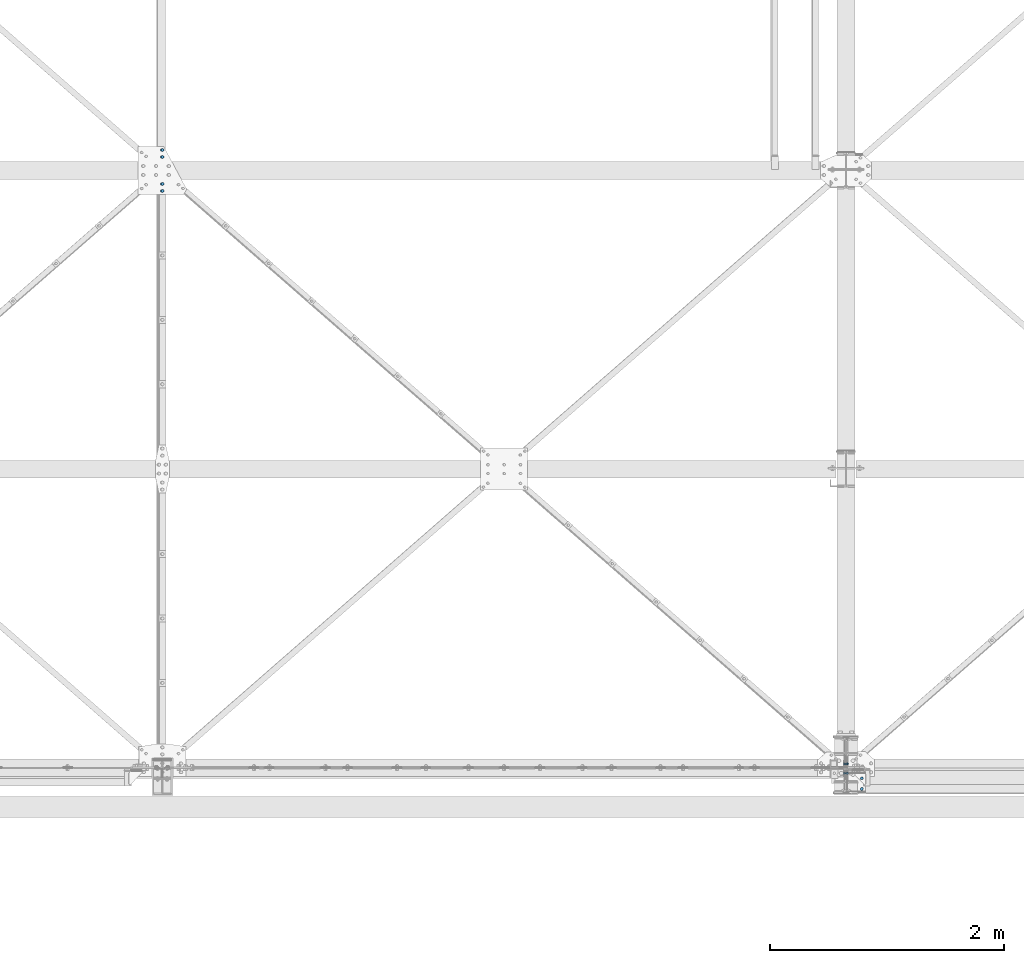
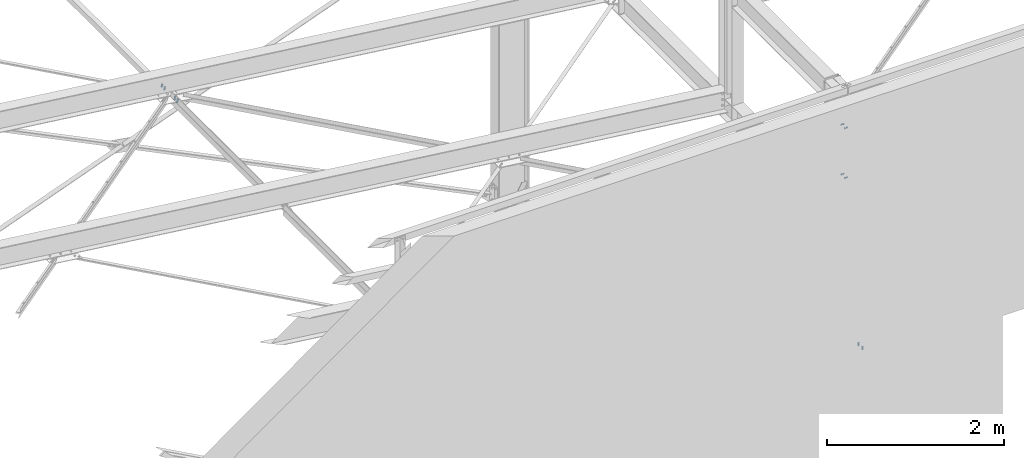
# One storey, part 123 of 3134: 5 mechanical fasteners, 4 elements without a shape of their own.
"""IFC2X3 building model written with IfcOpenShell, lengths in millimetres."""

import ifcopenshell
import ifcopenshell.guid

model = None  # the IFC model being written
_history = None  # IfcOwnerHistory: only IFC2X3 demands one
_inside = {}  # id of a spatial element -> (the spatial element, [elements in it])
_under = {}  # id of a project, library or spatial element -> (it, [spatial elements below it])
_declared = {}  # id of a project -> (the project, [libraries it declares])
_typed = {}  # id of a type object -> (the type object, [elements of that type])
_made_of = {}  # id of a material, layer set ... -> (it, [elements and type objects made of it])


def new_model(schema):
    """Start an empty IFC model of exactly this schema.

    Asked for "IFC4X3", IfcOpenShell would pick the latest addendum, in which some entities
    have other attributes; the version numbers below select the first issue.
    IFC2X3 requires an IfcOwnerHistory on every rooted entity: one is made here for all.
    """
    global model, _history
    if schema == "IFC4X3":
        model = ifcopenshell.file(schema_version=(4, 3, 0, 0))
    else:
        model = ifcopenshell.file(schema=schema)
    _inside.clear()
    _under.clear()
    _declared.clear()
    _typed.clear()
    _made_of.clear()
    _history = None
    if model.schema == "IFC2X3":
        org = make("IfcOrganization", Name="unknown")
        user = make(
            "IfcPersonAndOrganization",
            ThePerson=make("IfcPerson", FamilyName="unknown"),
            TheOrganization=org,
        )
        app = make(
            "IfcApplication",
            ApplicationDeveloper=org,
            Version="unknown",
            ApplicationFullName="unknown",
            ApplicationIdentifier="unknown",
        )
        _history = make(
            "IfcOwnerHistory",
            OwningUser=user,
            OwningApplication=app,
            ChangeAction="ADDED",
            CreationDate=0,
        )
    return model


def make(cls, **values):
    """One entity of the class cls with the attributes given. An attribute that is None is left unset."""
    return model.create_entity(
        cls, **{name: value for name, value in values.items() if value is not None}
    )


def rooted(cls, **values):
    """An entity with a GlobalId (a new one), such as an element, a storey or a relation."""
    return make(cls, GlobalId=ifcopenshell.guid.new(), OwnerHistory=_history, **values)


def si_unit(unit_type, name, prefix=None):
    """IfcSIUnit, for example si_unit("LENGTHUNIT", "METRE", prefix="MILLI")."""
    return make("IfcSIUnit", UnitType=unit_type, Prefix=prefix, Name=name)


def assignment(units):
    """IfcUnitAssignment: the units of a project."""
    return None if units is None else make("IfcUnitAssignment", Units=units)


def point(xyz):
    """IfcCartesianPoint."""
    return None if xyz is None else make("IfcCartesianPoint", Coordinates=xyz)


def direction(xyz):
    """IfcDirection."""
    return None if xyz is None else make("IfcDirection", DirectionRatios=xyz)


def frame(location, z_axis=None, x_axis=None):
    """IfcAxis2Placement3D, a coordinate frame: its origin and axes. An axis left out is left unset."""
    return make(
        "IfcAxis2Placement3D",
        Location=point(location),
        Axis=direction(z_axis),
        RefDirection=direction(x_axis),
    )


def origin_with_axes():
    """The frame at (0, 0, 0) with the z axis (0, 0, 1) and the x axis (1, 0, 0) written out."""
    return frame((0.0, 0.0, 0.0), z_axis=(0.0, 0.0, 1.0), x_axis=(1.0, 0.0, 0.0))


def place(relative_to, where):
    """IfcLocalPlacement: puts the frame where relative to a parent placement (None: the world)."""
    return make(
        "IfcLocalPlacement", PlacementRelTo=relative_to, RelativePlacement=where
    )


def context(
    kind, dimensions, precision=None, world=None, true_north=None, identifier=None
):
    """IfcGeometricRepresentationContext, for example the 3D "Model" context."""
    return make(
        "IfcGeometricRepresentationContext",
        ContextIdentifier=identifier,
        ContextType=kind,
        CoordinateSpaceDimension=dimensions,
        Precision=precision,
        WorldCoordinateSystem=world,
        TrueNorth=true_north,
    )


def subcontext(parent, identifier, kind, view, scale=None):
    """IfcGeometricRepresentationSubContext, for example "Body" below "Model"."""
    return make(
        "IfcGeometricRepresentationSubContext",
        ContextIdentifier=identifier,
        ContextType=kind,
        ParentContext=parent,
        TargetScale=scale,
        TargetView=view,
    )


def project(units=None, contexts=None):
    """IfcProject with its units and contexts."""
    return rooted(
        "IfcProject",
        Name="project",
        RepresentationContexts=contexts,
        UnitsInContext=assignment(units),
    )


def spatial(cls, under=None, at=None, **own):
    """A site, building, storey or space (cls), placed at a placement, below another one or the project."""
    s = rooted(cls, ObjectPlacement=at, **own)
    if under is not None:
        _under.setdefault(under.id(), (under, []))[1].append(s)
    return s


def faces_of(points, faces, orient=None, outer=None):
    """IfcFace entities. A face is a list of loops; a loop is a list of indices into points, from 0.

    orient and outer hold one flag for each loop. By default every Orientation is true, the
    first loop of a face is its IfcFaceOuterBound and the others are IfcFaceBound.
    """
    made = []
    for i, loops in enumerate(faces):
        bounds = []
        for j, loop in enumerate(loops):
            is_outer = j == 0 if outer is None else outer[i][j]
            bounds.append(
                make(
                    "IfcFaceOuterBound" if is_outer else "IfcFaceBound",
                    Bound=make("IfcPolyLoop", Polygon=[points[k] for k in loop]),
                    Orientation=True if orient is None else orient[i][j],
                )
            )
        made.append(make("IfcFace", Bounds=bounds))
    return made


def faceted_brep(points, faces, orient=None, outer=None, voids=None):
    """IfcFacetedBrep: a solid bounded by flat faces; with voids (closed shells), ...WithVoids."""
    shared = [point(p) for p in points]
    hull = make("IfcClosedShell", CfsFaces=faces_of(shared, faces, orient, outer))
    if voids is None:
        return make("IfcFacetedBrep", Outer=hull)
    return make(
        "IfcFacetedBrepWithVoids",
        Outer=hull,
        Voids=[
            make(cls, CfsFaces=faces_of(shared, fs, o, b)) for cls, fs, o, b in voids
        ],
    )


def shape(context_of_items, identifier, shape_type, items):
    """IfcShapeRepresentation: the items that make up one representation, for example the "Body"."""
    return make(
        "IfcShapeRepresentation",
        ContextOfItems=context_of_items,
        RepresentationIdentifier=identifier,
        RepresentationType=shape_type,
        Items=items,
    )


def source(mapping_origin, context_of_items, identifier, shape_type, items):
    """IfcRepresentationMap: a shape defined once, which mapped items show again and again."""
    return make(
        "IfcRepresentationMap",
        MappingOrigin=mapping_origin,
        MappedRepresentation=shape(context_of_items, identifier, shape_type, items),
    )


def transform(
    local_origin,
    x_axis=None,
    y_axis=None,
    z_axis=None,
    scale=None,
    scale2=None,
    scale3=None,
    uniform=True,
):
    """IfcCartesianTransformationOperator3D, or its non-uniform kind. x_axis, y_axis, z_axis: its Axis1, 2, 3."""
    if uniform:
        return make(
            "IfcCartesianTransformationOperator3D",
            Axis1=direction(x_axis),
            Axis2=direction(y_axis),
            LocalOrigin=point(local_origin),
            Scale=scale,
            Axis3=direction(z_axis),
        )
    return make(
        "IfcCartesianTransformationOperator3DnonUniform",
        Axis1=direction(x_axis),
        Axis2=direction(y_axis),
        LocalOrigin=point(local_origin),
        Scale=scale,
        Axis3=direction(z_axis),
        Scale2=scale2,
        Scale3=scale3,
    )


def mapped(mapping_source, mapping_target):
    """IfcMappedItem: shows the shape of a source again, moved by a transform."""
    return make(
        "IfcMappedItem", MappingSource=mapping_source, MappingTarget=mapping_target
    )


def material(Name=None, Category=None):
    """IfcMaterial."""
    return make("IfcMaterial", Name=Name, Category=Category)


def made_of(thing, what):
    """Note that an element or type object is made of a material, layer set ...; save() writes the relation."""
    if what is not None:
        _made_of.setdefault(what.id(), (what, []))[1].append(thing)
    return thing


def type_object(cls, material=None, **own):
    """A type object (cls), such as IfcWallType, which elements share."""
    return made_of(rooted(cls, **own), material)


def element(
    cls,
    number,
    at=None,
    inside=None,
    cuts=None,
    type_object=None,
    material=None,
    context=None,
    identifier="Body",
    shape_type=None,
    held_by="IfcProductDefinitionShape",
    body=None,
    shapes=None,
    **own,
):
    """One element of the class cls, such as IfcWall. Its Tag is "e" and its number.

    at: its placement. inside: the storey or other place that contains it. cuts: it is an
    opening in that element (IfcRelVoidsElement). A single representation is given by context,
    identifier, shape_type and body (its items); several are given by shapes. held_by: the class
    of the entity that holds the representations. save() writes the other relations.
    """
    e = rooted(cls, Tag="e%d" % number, ObjectPlacement=at, **own)
    if body is not None:
        shapes = [shape(context, identifier, shape_type, body)]
    if shapes is not None:
        e.Representation = make(held_by, Representations=shapes)
    if inside is not None:
        _inside.setdefault(inside.id(), (inside, []))[1].append(e)
    if cuts is not None:
        rooted(
            "IfcRelVoidsElement", RelatingBuildingElement=cuts, RelatedOpeningElement=e
        )
    if type_object is not None:
        _typed.setdefault(type_object.id(), (type_object, []))[1].append(e)
    return made_of(e, material)


def aggregate(whole, parts):
    """IfcRelAggregates: a whole, such as a stair, and the parts it consists of."""
    return rooted("IfcRelAggregates", RelatingObject=whole, RelatedObjects=parts)


def save(model, path):
    """Write the relations noted so far, then the file.

    IfcRelAggregates (storeys below a building ...), IfcRelContainedInSpatialStructure (elements
    in a storey), IfcRelDefinesByType, IfcRelAssociatesMaterial and IfcRelDeclares: one each for
    every whole, place, type object, material and project.
    """
    for whole, parts in _under.values():
        aggregate(whole, parts)
    for where, things in _inside.values():
        rooted(
            "IfcRelContainedInSpatialStructure",
            RelatedElements=things,
            RelatingStructure=where,
        )
    for kind, things in _typed.values():
        rooted("IfcRelDefinesByType", RelatedObjects=things, RelatingType=kind)
    for what, things in _made_of.values():
        rooted("IfcRelAssociatesMaterial", RelatedObjects=things, RelatingMaterial=what)
    for by, libraries in _declared.values():
        rooted("IfcRelDeclares", RelatingContext=by, RelatedDefinitions=libraries)
    model.write(path)


model = new_model("IFC2X3")

# Units and contexts
model_context = context("Model", 3, precision=1e-05, world=origin_with_axes())
body_context = subcontext(model_context, "Body", "Model", "MODEL_VIEW")
ifc_project = project(units=[si_unit("LENGTHUNIT", "METRE", prefix="MILLI"), si_unit("AREAUNIT", "SQUARE_METRE"), si_unit("VOLUMEUNIT", "CUBIC_METRE"), si_unit("MASSUNIT", "GRAM", prefix="KILO"), si_unit("TIMEUNIT", "SECOND"), si_unit("PLANEANGLEUNIT", "RADIAN"), si_unit("SOLIDANGLEUNIT", "STERADIAN"), si_unit("THERMODYNAMICTEMPERATUREUNIT", "DEGREE_CELSIUS"), si_unit("LUMINOUSINTENSITYUNIT", "LUMEN")], contexts=[model_context])

# Site, building, storey
site_placement = place(None, origin_with_axes())
site = spatial("IfcSite", under=ifc_project, at=site_placement, CompositionType="ELEMENT")
building_placement = place(site_placement, origin_with_axes())
building = spatial("IfcBuilding", under=site, at=building_placement, Name="Undefined", CompositionType="ELEMENT")
storey_placement = place(building_placement, origin_with_axes())
storey = spatial("IfcBuildingStorey", under=building, at=storey_placement, Name="Undefined", CompositionType="ELEMENT", Elevation=0.0)

# Assembly, mechanical fastener
assembly_1_placement = place(storey_placement, origin_with_axes())
assembly_1 = element("IfcElementAssembly", 1, at=assembly_1_placement, inside=storey, AssemblyPlace="NOTDEFINED", PredefinedType="RIGID_FRAME")
ifc_material = material(Name="8.8")
mechanical_fastener_type = type_object("IfcMechanicalFastenerType", Name="Bolt assembly")
shared_shape_1 = source(origin_with_axes(), body_context, "Body", "Brep", [
    faceted_brep([(13.856406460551, -16.9990000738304, 0.0), (6.92820323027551, -16.9990000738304, 12.0), (-6.92820323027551, -16.9990000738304, 12.0), (-13.856406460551, -16.9990000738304, 1.69692038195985e-15), (-6.92820323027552, -16.9990000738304, -12.0), (6.9282032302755, -16.9990000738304, -12.0), (6.9282032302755, -6.99900007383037, -12.0), (-6.92820323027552, -6.99900007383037, -12.0), (-13.856406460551, -6.99900007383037, 1.69692038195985e-15), (-6.92820323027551, -6.99900007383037, 12.0), (6.92820323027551, -6.99900007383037, 12.0), (13.856406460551, -6.99900007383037, 0.0), (8.0, -6.99900007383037, 0.0), (6.92820323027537, -6.99900007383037, 4.00000000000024), (3.99999999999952, -6.99900007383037, 6.92820323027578), (-8.29068785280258e-13, -6.99900007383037, 8.0), (-4.00000000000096, -6.99900007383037, 6.92820323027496), (-6.9282032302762, -6.99900007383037, 3.99999999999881), (-8.0, -6.99900007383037, -1.65813757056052e-12), (-6.92820323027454, -6.99900007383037, -4.00000000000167), (-3.99999999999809, -6.99900007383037, -6.92820323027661), (2.47832457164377e-12, -6.99900007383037, -8.0), (4.00000000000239, -6.99900007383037, -6.92820323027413), (6.92820323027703, -6.99900007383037, -3.99999999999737), (6.92820323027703, 33.0009999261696, -3.99999999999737), (4.00000000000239, 33.0009999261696, -6.92820323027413), (2.47832457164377e-12, 33.0009999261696, -8.0), (-3.99999999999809, 33.0009999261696, -6.92820323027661), (-6.92820323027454, 33.0009999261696, -4.00000000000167), (-8.0, 33.0009999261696, -1.65813757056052e-12), (-6.9282032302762, 33.0009999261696, 3.99999999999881), (-4.00000000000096, 33.0009999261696, 6.92820323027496), (-8.29068785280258e-13, 33.0009999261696, 8.0), (3.99999999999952, 33.0009999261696, 6.92820323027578), (6.92820323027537, 33.0009999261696, 4.00000000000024), (8.0, 33.0009999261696, 0.0), (13.856406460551, 14.9990000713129, 0.0), (6.92820323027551, 14.9990000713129, 12.0), (-6.92820323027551, 14.9990000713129, 12.0), (-13.856406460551, 14.9990000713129, 1.69692038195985e-15), (-6.92820323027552, 14.9990000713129, -12.0), (6.9282032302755, 14.9990000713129, -12.0), (6.9282032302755, 27.9990000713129, -12.0), (-6.92820323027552, 27.9990000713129, -12.0), (-13.856406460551, 27.9990000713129, 1.69692038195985e-15), (-6.92820323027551, 27.9990000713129, 12.0), (6.92820323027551, 27.9990000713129, 12.0), (13.856406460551, 27.9990000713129, 0.0)], [[[0, 1, 2, 3, 4, 5]], [[6, 7, 8, 9, 10, 11]], [[0, 11, 10, 1]], [[1, 10, 9, 2]], [[2, 9, 8, 3]], [[3, 8, 7, 4]], [[4, 7, 6, 5]], [[5, 6, 11, 0]], [[12, 13, 14, 15, 16, 17, 18, 19, 20, 21, 22, 23]], [[24, 25, 26, 27, 28, 29, 30, 31, 32, 33, 34, 35]], [[12, 35, 34, 13]], [[13, 34, 33, 14]], [[14, 33, 32, 15]], [[15, 32, 31, 16]], [[16, 31, 30, 17]], [[17, 30, 29, 18]], [[18, 29, 28, 19]], [[19, 28, 27, 20]], [[20, 27, 26, 21]], [[21, 26, 25, 22]], [[22, 25, 24, 23]], [[23, 24, 35, 12]], [[36, 37, 38, 39, 40, 41]], [[42, 43, 44, 45, 46, 47]], [[36, 47, 46, 37]], [[37, 46, 45, 38]], [[38, 45, 44, 39]], [[39, 44, 43, 40]], [[40, 43, 42, 41]], [[41, 42, 47, 36]]]),
    faceted_brep([(9.0, -3.46568413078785e-07, 0.0), (7.79422863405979, -3.46568413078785e-07, 4.50000000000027), (4.49999999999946, -3.46568413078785e-07, 7.79422863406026), (-9.3270238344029e-13, -3.46568413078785e-07, 9.0), (-4.50000000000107, -3.46568413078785e-07, 7.79422863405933), (-7.79422863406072, -3.46568413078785e-07, 4.49999999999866), (-9.0, -3.46568413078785e-07, -1.86540476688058e-12), (-7.79422863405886, -3.46568413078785e-07, -4.50000000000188), (-4.49999999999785, -3.46568413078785e-07, -7.79422863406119), (2.78811514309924e-12, -3.46568413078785e-07, -9.0), (4.50000000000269, -3.46568413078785e-07, -7.7942286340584), (7.79422863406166, -3.46568413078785e-07, -4.49999999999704), (7.79422863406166, 8.00000000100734, -4.49999999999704), (4.50000000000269, 8.00000000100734, -7.7942286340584), (2.78811514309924e-12, 8.00000000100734, -9.0), (-4.49999999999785, 8.00000000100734, -7.79422863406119), (-7.79422863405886, 8.00000000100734, -4.50000000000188), (-9.0, 8.00000000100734, -1.86540476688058e-12), (-7.79422863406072, 8.00000000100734, 4.49999999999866), (-4.50000000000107, 8.00000000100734, 7.79422863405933), (-9.3270238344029e-13, 8.00000000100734, 9.0), (4.49999999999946, 8.00000000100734, 7.79422863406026), (7.79422863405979, 8.00000000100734, 4.50000000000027), (9.0, 8.00000000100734, 0.0), (9.0, -6.89900007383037, 0.0), (7.79422863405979, -6.89900007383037, 4.50000000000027), (4.49999999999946, -6.89900007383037, 7.79422863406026), (-9.3270238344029e-13, -6.89900007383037, 9.0), (-4.50000000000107, -6.89900007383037, 7.79422863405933), (-7.79422863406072, -6.89900007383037, 4.49999999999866), (-9.0, -6.89900007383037, -1.86540476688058e-12), (-7.79422863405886, -6.89900007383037, -4.50000000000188), (-4.49999999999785, -6.89900007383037, -7.79422863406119), (2.78811514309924e-12, -6.89900007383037, -9.0), (4.50000000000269, -6.89900007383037, -7.7942286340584), (7.79422863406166, -6.89900007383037, -4.49999999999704), (7.79422863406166, 0.100999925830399, -4.49999999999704), (4.50000000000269, 0.100999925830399, -7.7942286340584), (2.78811514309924e-12, 0.100999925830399, -9.0), (-4.49999999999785, 0.100999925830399, -7.79422863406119), (-7.79422863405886, 0.100999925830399, -4.50000000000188), (-9.0, 0.100999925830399, -1.86540476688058e-12), (-7.79422863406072, 0.100999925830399, 4.49999999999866), (-4.50000000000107, 0.100999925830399, 7.79422863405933), (-9.3270238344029e-13, 0.100999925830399, 9.0), (4.49999999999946, 0.100999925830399, 7.79422863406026), (7.79422863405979, 0.100999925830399, 4.50000000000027), (9.0, 0.100999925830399, 0.0), (9.0, 7.89900007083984, 0.0), (7.79422863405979, 7.89900007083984, 4.50000000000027), (4.49999999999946, 7.89900007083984, 7.79422863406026), (-9.3270238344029e-13, 7.89900007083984, 9.0), (-4.50000000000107, 7.89900007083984, 7.79422863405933), (-7.79422863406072, 7.89900007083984, 4.49999999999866), (-9.0, 7.89900007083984, -1.86540476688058e-12), (-7.79422863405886, 7.89900007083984, -4.50000000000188), (-4.49999999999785, 7.89900007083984, -7.79422863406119), (2.78811514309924e-12, 7.89900007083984, -9.0), (4.50000000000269, 7.89900007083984, -7.7942286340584), (7.79422863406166, 7.89900007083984, -4.49999999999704), (7.79422863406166, 14.9990000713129, -4.49999999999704), (4.50000000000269, 14.9990000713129, -7.7942286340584), (2.78811514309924e-12, 14.9990000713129, -9.0), (-4.49999999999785, 14.9990000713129, -7.79422863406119), (-7.79422863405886, 14.9990000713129, -4.50000000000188), (-9.0, 14.9990000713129, -1.86540476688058e-12), (-7.79422863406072, 14.9990000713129, 4.49999999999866), (-4.50000000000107, 14.9990000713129, 7.79422863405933), (-9.3270238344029e-13, 14.9990000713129, 9.0), (4.49999999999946, 14.9990000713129, 7.79422863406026), (7.79422863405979, 14.9990000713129, 4.50000000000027), (9.0, 14.9990000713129, 0.0)], [[[0, 1, 2, 3, 4, 5, 6, 7, 8, 9, 10, 11]], [[12, 13, 14, 15, 16, 17, 18, 19, 20, 21, 22, 23]], [[0, 23, 22, 1]], [[1, 22, 21, 2]], [[2, 21, 20, 3]], [[3, 20, 19, 4]], [[4, 19, 18, 5]], [[5, 18, 17, 6]], [[6, 17, 16, 7]], [[7, 16, 15, 8]], [[8, 15, 14, 9]], [[9, 14, 13, 10]], [[10, 13, 12, 11]], [[11, 12, 23, 0]], [[24, 25, 26, 27, 28, 29, 30, 31, 32, 33, 34, 35]], [[36, 37, 38, 39, 40, 41, 42, 43, 44, 45, 46, 47]], [[24, 47, 46, 25]], [[25, 46, 45, 26]], [[26, 45, 44, 27]], [[27, 44, 43, 28]], [[28, 43, 42, 29]], [[29, 42, 41, 30]], [[30, 41, 40, 31]], [[31, 40, 39, 32]], [[32, 39, 38, 33]], [[33, 38, 37, 34]], [[34, 37, 36, 35]], [[35, 36, 47, 24]], [[48, 49, 50, 51, 52, 53, 54, 55, 56, 57, 58, 59]], [[60, 61, 62, 63, 64, 65, 66, 67, 68, 69, 70, 71]], [[48, 71, 70, 49]], [[49, 70, 69, 50]], [[50, 69, 68, 51]], [[51, 68, 67, 52]], [[52, 67, 66, 53]], [[53, 66, 65, 54]], [[54, 65, 64, 55]], [[55, 64, 63, 56]], [[56, 63, 62, 57]], [[57, 62, 61, 58]], [[58, 61, 60, 59]], [[59, 60, 71, 48]]]),
])
mechanical_fastener_1_placement = place(assembly_1_placement, frame((50037.9849612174, 4925.0, 4806.73358921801), z_axis=(-0.992623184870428, 0.0, 0.121240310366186), x_axis=(0.0, 1.0, 0.0)))
mechanical_fastener_1 = element("IfcMechanicalFastener", 2, at=mechanical_fastener_1_placement, type_object=mechanical_fastener_type, material=ifc_material, Name="Bolt assembly", NominalDiameter=16.0, NominalLength=40.0, context=body_context, shape_type="MappedRepresentation", body=[
    mapped(shared_shape_1, transform((0.0, 0.0, 0.0))),
    mapped(shared_shape_1, transform((59.9999999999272, 0.0, 5.40239852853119e-10))),
])
aggregate(assembly_1, [mechanical_fastener_1])

assembly_2_placement = place(storey_placement, origin_with_axes())
assembly_2 = element("IfcElementAssembly", 3, at=assembly_2_placement, inside=storey, Name="PL8", AssemblyPlace="NOTDEFINED", PredefinedType="RIGID_FRAME")
shared_shape_2 = source(origin_with_axes(), body_context, "Body", "Brep", [
    faceted_brep([(13.856406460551, -10.0, 0.0), (6.92820323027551, -10.0, 12.0), (-6.92820323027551, -10.0, 12.0), (-13.856406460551, -10.0, 1.69692038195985e-15), (-6.92820323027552, -10.0, -12.0), (6.9282032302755, -10.0, -12.0), (6.9282032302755, 0.0, -12.0), (-6.92820323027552, 0.0, -12.0), (-13.856406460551, 0.0, 1.69692038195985e-15), (-6.92820323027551, 0.0, 12.0), (6.92820323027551, 0.0, 12.0), (13.856406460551, 0.0, 0.0), (8.0, 0.0, 0.0), (6.92820323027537, 0.0, 4.00000000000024), (3.99999999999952, 0.0, 6.92820323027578), (-8.29068785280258e-13, 0.0, 8.0), (-4.00000000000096, 0.0, 6.92820323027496), (-6.9282032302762, 0.0, 3.99999999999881), (-8.0, 0.0, -1.65813757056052e-12), (-6.92820323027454, 0.0, -4.00000000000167), (-3.99999999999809, 0.0, -6.92820323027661), (2.47832457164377e-12, 0.0, -8.0), (4.00000000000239, 0.0, -6.92820323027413), (6.92820323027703, 0.0, -3.99999999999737), (6.92820323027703, 35.0000000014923, -3.99999999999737), (4.00000000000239, 35.0000000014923, -6.92820323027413), (2.47832457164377e-12, 35.0000000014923, -8.0), (-3.99999999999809, 35.0000000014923, -6.92820323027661), (-6.92820323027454, 35.0000000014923, -4.00000000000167), (-8.0, 35.0000000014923, -1.65813757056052e-12), (-6.9282032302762, 35.0000000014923, 3.99999999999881), (-4.00000000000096, 35.0000000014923, 6.92820323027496), (-8.29068785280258e-13, 35.0000000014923, 8.0), (3.99999999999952, 35.0000000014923, 6.92820323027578), (6.92820323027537, 35.0000000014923, 4.00000000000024), (8.0, 35.0000000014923, 0.0), (13.856406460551, 14.9999995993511, 0.0), (6.92820323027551, 14.9999995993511, 12.0), (-6.92820323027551, 14.9999995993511, 12.0), (-13.856406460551, 14.9999995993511, 1.69692038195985e-15), (-6.92820323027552, 14.9999995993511, -12.0), (6.9282032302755, 14.9999995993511, -12.0), (6.9282032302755, 27.9999995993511, -12.0), (-6.92820323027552, 27.9999995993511, -12.0), (-13.856406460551, 27.9999995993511, 1.69692038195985e-15), (-6.92820323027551, 27.9999995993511, 12.0), (6.92820323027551, 27.9999995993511, 12.0), (13.856406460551, 27.9999995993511, 0.0)], [[[0, 1, 2, 3, 4, 5]], [[6, 7, 8, 9, 10, 11]], [[0, 11, 10, 1]], [[1, 10, 9, 2]], [[2, 9, 8, 3]], [[3, 8, 7, 4]], [[4, 7, 6, 5]], [[5, 6, 11, 0]], [[12, 13, 14, 15, 16, 17, 18, 19, 20, 21, 22, 23]], [[24, 25, 26, 27, 28, 29, 30, 31, 32, 33, 34, 35]], [[12, 35, 34, 13]], [[13, 34, 33, 14]], [[14, 33, 32, 15]], [[15, 32, 31, 16]], [[16, 31, 30, 17]], [[17, 30, 29, 18]], [[18, 29, 28, 19]], [[19, 28, 27, 20]], [[20, 27, 26, 21]], [[21, 26, 25, 22]], [[22, 25, 24, 23]], [[23, 24, 35, 12]], [[36, 37, 38, 39, 40, 41]], [[42, 43, 44, 45, 46, 47]], [[36, 47, 46, 37]], [[37, 46, 45, 38]], [[38, 45, 44, 39]], [[39, 44, 43, 40]], [[40, 43, 42, 41]], [[41, 42, 47, 36]]]),
    faceted_brep([(9.0, 7.9, 0.0), (7.79422863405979, 7.9, 4.50000000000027), (4.49999999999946, 7.9, 7.79422863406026), (-9.3270238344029e-13, 7.9, 9.0), (-4.50000000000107, 7.9, 7.79422863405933), (-7.79422863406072, 7.9, 4.49999999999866), (-9.0, 7.9, -1.86540476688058e-12), (-7.79422863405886, 7.9, -4.50000000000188), (-4.49999999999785, 7.9, -7.79422863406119), (2.78811514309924e-12, 7.9, -9.0), (4.50000000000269, 7.9, -7.7942286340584), (7.79422863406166, 7.9, -4.49999999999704), (7.79422863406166, 14.9999995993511, -4.49999999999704), (4.50000000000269, 14.9999995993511, -7.7942286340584), (2.78811514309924e-12, 14.9999995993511, -9.0), (-4.49999999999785, 14.9999995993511, -7.79422863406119), (-7.79422863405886, 14.9999995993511, -4.50000000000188), (-9.0, 14.9999995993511, -1.86540476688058e-12), (-7.79422863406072, 14.9999995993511, 4.49999999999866), (-4.50000000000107, 14.9999995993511, 7.79422863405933), (-9.3270238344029e-13, 14.9999995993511, 9.0), (4.49999999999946, 14.9999995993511, 7.79422863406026), (7.79422863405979, 14.9999995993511, 4.50000000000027), (9.0, 14.9999995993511, 0.0), (9.0, 0.100000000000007, 0.0), (7.79422863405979, 0.100000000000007, 4.50000000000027), (4.49999999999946, 0.100000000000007, 7.79422863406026), (-9.3270238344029e-13, 0.100000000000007, 9.0), (-4.50000000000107, 0.100000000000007, 7.79422863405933), (-7.79422863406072, 0.100000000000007, 4.49999999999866), (-9.0, 0.100000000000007, -1.86540476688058e-12), (-7.79422863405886, 0.100000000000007, -4.50000000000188), (-4.49999999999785, 0.100000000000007, -7.79422863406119), (2.78811514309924e-12, 0.100000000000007, -9.0), (4.50000000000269, 0.100000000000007, -7.7942286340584), (7.79422863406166, 0.100000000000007, -4.49999999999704), (7.79422863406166, 8.1, -4.49999999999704), (4.50000000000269, 8.1, -7.7942286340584), (2.78811514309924e-12, 8.1, -9.0), (-4.49999999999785, 8.1, -7.79422863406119), (-7.79422863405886, 8.1, -4.50000000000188), (-9.0, 8.1, -1.86540476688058e-12), (-7.79422863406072, 8.1, 4.49999999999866), (-4.50000000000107, 8.1, 7.79422863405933), (-9.3270238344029e-13, 8.1, 9.0), (4.49999999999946, 8.1, 7.79422863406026), (7.79422863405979, 8.1, 4.50000000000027), (9.0, 8.1, 0.0)], [[[0, 1, 2, 3, 4, 5, 6, 7, 8, 9, 10, 11]], [[12, 13, 14, 15, 16, 17, 18, 19, 20, 21, 22, 23]], [[0, 23, 22, 1]], [[1, 22, 21, 2]], [[2, 21, 20, 3]], [[3, 20, 19, 4]], [[4, 19, 18, 5]], [[5, 18, 17, 6]], [[6, 17, 16, 7]], [[7, 16, 15, 8]], [[8, 15, 14, 9]], [[9, 14, 13, 10]], [[10, 13, 12, 11]], [[11, 12, 23, 0]], [[24, 25, 26, 27, 28, 29, 30, 31, 32, 33, 34, 35]], [[36, 37, 38, 39, 40, 41, 42, 43, 44, 45, 46, 47]], [[24, 47, 46, 25]], [[25, 46, 45, 26]], [[26, 45, 44, 27]], [[27, 44, 43, 28]], [[28, 43, 42, 29]], [[29, 42, 41, 30]], [[30, 41, 40, 31]], [[31, 40, 39, 32]], [[32, 39, 38, 33]], [[33, 38, 37, 34]], [[34, 37, 36, 35]], [[35, 36, 47, 24]]]),
])
mechanical_fastener_2_placement = place(assembly_2_placement, frame((50037.9849612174, 5274.99999999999, 4806.733589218), z_axis=(0.992623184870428, 0.0, -0.121240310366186), x_axis=(0.0, -1.0, 0.0)))
mechanical_fastener_2 = element("IfcMechanicalFastener", 4, at=mechanical_fastener_2_placement, type_object=mechanical_fastener_type, material=ifc_material, Name="Bolt assembly", NominalDiameter=16.0, NominalLength=35.0, context=body_context, shape_type="MappedRepresentation", body=[
    mapped(shared_shape_2, transform((0.0, 0.0, 0.0))),
    mapped(shared_shape_2, transform((59.9999999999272, 0.0, 5.40239852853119e-10))),
])
aggregate(assembly_2, [mechanical_fastener_2])

assembly_3_placement = place(storey_placement, origin_with_axes())
assembly_3 = element("IfcElementAssembly", 5, at=assembly_3_placement, inside=storey, Name="UPN180", AssemblyPlace="NOTDEFINED", PredefinedType="RIGID_FRAME")
shared_shape_3 = source(origin_with_axes(), body_context, "Body", "Brep", [
    faceted_brep([(13.856406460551, -18.0, 0.0), (6.92820323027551, -18.0, 12.0), (-6.92820323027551, -18.0, 12.0), (-13.856406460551, -18.0, 1.69692038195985e-15), (-6.92820323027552, -18.0, -12.0), (6.9282032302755, -18.0, -12.0), (6.9282032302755, -7.99999766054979, -12.0), (-6.92820323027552, -7.99999766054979, -12.0), (-13.856406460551, -7.99999766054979, 1.69692038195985e-15), (-6.92820323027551, -7.99999766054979, 12.0), (6.92820323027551, -7.99999766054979, 12.0), (13.856406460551, -7.99999766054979, 0.0), (8.0, -8.0, 0.0), (6.92820323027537, -8.0, 4.00000000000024), (3.99999999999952, -8.0, 6.92820323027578), (-8.29068785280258e-13, -8.0, 8.0), (-4.00000000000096, -8.0, 6.92820323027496), (-6.9282032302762, -8.0, 3.99999999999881), (-8.0, -8.0, -1.65813757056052e-12), (-6.92820323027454, -8.0, -4.00000000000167), (-3.99999999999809, -8.0, -6.92820323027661), (2.47832457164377e-12, -8.0, -8.0), (4.00000000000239, -8.0, -6.92820323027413), (6.92820323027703, -8.0, -3.99999999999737), (6.92820323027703, 27.0, -3.99999999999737), (4.00000000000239, 27.0, -6.92820323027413), (2.47832457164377e-12, 27.0, -8.0), (-3.99999999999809, 27.0, -6.92820323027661), (-6.92820323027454, 27.0, -4.00000000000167), (-8.0, 27.0, -1.65813757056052e-12), (-6.9282032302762, 27.0, 3.99999999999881), (-4.00000000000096, 27.0, 6.92820323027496), (-8.29068785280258e-13, 27.0, 8.0), (3.99999999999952, 27.0, 6.92820323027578), (6.92820323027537, 27.0, 4.00000000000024), (8.0, 27.0, 0.0), (13.856406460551, 5.99999999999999, 0.0), (6.92820323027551, 5.99999999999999, 12.0), (-6.92820323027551, 5.99999999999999, 12.0), (-13.856406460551, 5.99999999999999, 1.69692038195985e-15), (-6.92820323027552, 5.99999999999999, -12.0), (6.9282032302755, 5.99999999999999, -12.0), (6.9282032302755, 19.0, -12.0), (-6.92820323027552, 19.0, -12.0), (-13.856406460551, 19.0, 1.69692038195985e-15), (-6.92820323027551, 19.0, 12.0), (6.92820323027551, 19.0, 12.0), (13.856406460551, 19.0, 0.0)], [[[0, 1, 2, 3, 4, 5]], [[6, 7, 8, 9, 10, 11]], [[0, 11, 10, 1]], [[1, 10, 9, 2]], [[2, 9, 8, 3]], [[3, 8, 7, 4]], [[4, 7, 6, 5]], [[5, 6, 11, 0]], [[12, 13, 14, 15, 16, 17, 18, 19, 20, 21, 22, 23]], [[24, 25, 26, 27, 28, 29, 30, 31, 32, 33, 34, 35]], [[12, 35, 34, 13]], [[13, 34, 33, 14]], [[14, 33, 32, 15]], [[15, 32, 31, 16]], [[16, 31, 30, 17]], [[17, 30, 29, 18]], [[18, 29, 28, 19]], [[19, 28, 27, 20]], [[20, 27, 26, 21]], [[21, 26, 25, 22]], [[22, 25, 24, 23]], [[23, 24, 35, 12]], [[36, 37, 38, 39, 40, 41]], [[42, 43, 44, 45, 46, 47]], [[36, 47, 46, 37]], [[37, 46, 45, 38]], [[38, 45, 44, 39]], [[39, 44, 43, 40]], [[40, 43, 42, 41]], [[41, 42, 47, 36]]]),
    faceted_brep([(9.0, -0.1, 0.0), (7.79422863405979, -0.1, 4.50000000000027), (4.49999999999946, -0.1, 7.79422863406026), (-9.3270238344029e-13, -0.1, 9.0), (-4.50000000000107, -0.1, 7.79422863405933), (-7.79422863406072, -0.1, 4.49999999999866), (-9.0, -0.1, -1.86540476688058e-12), (-7.79422863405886, -0.1, -4.50000000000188), (-4.49999999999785, -0.1, -7.79422863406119), (2.78811514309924e-12, -0.1, -9.0), (4.50000000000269, -0.1, -7.7942286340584), (7.79422863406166, -0.1, -4.49999999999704), (7.79422863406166, 5.99999999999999, -4.49999999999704), (4.50000000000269, 5.99999999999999, -7.7942286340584), (2.78811514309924e-12, 5.99999999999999, -9.0), (-4.49999999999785, 5.99999999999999, -7.79422863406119), (-7.79422863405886, 5.99999999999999, -4.50000000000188), (-9.0, 5.99999999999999, -1.86540476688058e-12), (-7.79422863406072, 5.99999999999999, 4.49999999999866), (-4.50000000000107, 5.99999999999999, 7.79422863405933), (-9.3270238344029e-13, 5.99999999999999, 9.0), (4.49999999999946, 5.99999999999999, 7.79422863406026), (7.79422863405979, 5.99999999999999, 4.50000000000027), (9.0, 5.99999999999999, 0.0), (9.0, -7.9, 0.0), (7.79422863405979, -7.9, 4.50000000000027), (4.49999999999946, -7.9, 7.79422863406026), (-9.3270238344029e-13, -7.9, 9.0), (-4.50000000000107, -7.9, 7.79422863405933), (-7.79422863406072, -7.9, 4.49999999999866), (-9.0, -7.9, -1.86540476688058e-12), (-7.79422863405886, -7.9, -4.50000000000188), (-4.49999999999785, -7.9, -7.79422863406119), (2.78811514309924e-12, -7.9, -9.0), (4.50000000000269, -7.9, -7.7942286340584), (7.79422863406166, -7.9, -4.49999999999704), (7.79422863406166, 0.100000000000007, -4.49999999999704), (4.50000000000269, 0.100000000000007, -7.7942286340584), (2.78811514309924e-12, 0.100000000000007, -9.0), (-4.49999999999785, 0.100000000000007, -7.79422863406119), (-7.79422863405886, 0.100000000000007, -4.50000000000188), (-9.0, 0.100000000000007, -1.86540476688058e-12), (-7.79422863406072, 0.100000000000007, 4.49999999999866), (-4.50000000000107, 0.100000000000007, 7.79422863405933), (-9.3270238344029e-13, 0.100000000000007, 9.0), (4.49999999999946, 0.100000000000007, 7.79422863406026), (7.79422863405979, 0.100000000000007, 4.50000000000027), (9.0, 0.100000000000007, 0.0)], [[[0, 1, 2, 3, 4, 5, 6, 7, 8, 9, 10, 11]], [[12, 13, 14, 15, 16, 17, 18, 19, 20, 21, 22, 23]], [[0, 23, 22, 1]], [[1, 22, 21, 2]], [[2, 21, 20, 3]], [[3, 20, 19, 4]], [[4, 19, 18, 5]], [[5, 18, 17, 6]], [[6, 17, 16, 7]], [[7, 16, 15, 8]], [[8, 15, 14, 9]], [[9, 14, 13, 10]], [[10, 13, 12, 11]], [[11, 12, 23, 0]], [[24, 25, 26, 27, 28, 29, 30, 31, 32, 33, 34, 35]], [[36, 37, 38, 39, 40, 41, 42, 43, 44, 45, 46, 47]], [[24, 47, 46, 25]], [[25, 46, 45, 26]], [[26, 45, 44, 27]], [[27, 44, 43, 28]], [[28, 43, 42, 29]], [[29, 42, 41, 30]], [[30, 41, 40, 31]], [[31, 40, 39, 32]], [[32, 39, 38, 33]], [[33, 38, 37, 34]], [[34, 37, 36, 35]], [[35, 36, 47, 24]]]),
])
mechanical_fastener_3_placement = place(assembly_3_placement, frame((56010.0999999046, -135.0, 2400.0), z_axis=(0.0, 1.0, 0.0), x_axis=(1.0, 0.0, 0.0)))
mechanical_fastener_3 = element("IfcMechanicalFastener", 6, at=mechanical_fastener_3_placement, type_object=mechanical_fastener_type, material=ifc_material, Name="Bolt assembly", NominalDiameter=16.0, NominalLength=35.0, context=body_context, shape_type="MappedRepresentation", body=[
    mapped(shared_shape_3, transform((0.0, 0.0, -45.0))),
    mapped(shared_shape_3, transform((0.0, 0.0, 45.0))),
])
aggregate(assembly_3, [mechanical_fastener_3])

# Assembly, mechanical fasteners
assembly_4_placement = place(storey_placement, origin_with_axes())
assembly_4 = element("IfcElementAssembly", 7, at=assembly_4_placement, inside=storey, AssemblyPlace="NOTDEFINED", PredefinedType="RIGID_FRAME")
shared_shape_4 = source(origin_with_axes(), body_context, "Body", "Brep", [
    faceted_brep([(10.9696551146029, -16.0, 0.0), (5.48482755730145, -16.0, 9.5), (-5.48482755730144, -16.0, 9.5), (-10.9696551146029, -16.0, 1.34339530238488e-15), (-5.48482755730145, -16.0, -9.5), (5.48482755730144, -16.0, -9.50000000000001), (5.48482755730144, -8.0, -9.50000000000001), (-5.48482755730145, -8.0, -9.5), (-10.9696551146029, -8.0, 1.34339530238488e-15), (-5.48482755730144, -8.0, 9.5), (5.48482755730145, -8.0, 9.5), (10.9696551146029, -8.0, 0.0), (6.0, -8.0, 0.0), (5.19615242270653, -8.0, 3.00000000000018), (2.99999999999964, -8.0, 5.19615242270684), (-6.21801588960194e-13, -8.0, 6.0), (-3.00000000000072, -8.0, 5.19615242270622), (-5.19615242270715, -8.0, 2.9999999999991), (-6.0, -8.0, -1.24360317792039e-12), (-5.19615242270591, -8.0, -3.00000000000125), (-2.99999999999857, -8.0, -5.19615242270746), (1.85874342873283e-12, -8.0, -6.0), (3.00000000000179, -8.0, -5.1961524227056), (5.19615242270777, -8.0, -2.99999999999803), (5.19615242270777, 27.0, -2.99999999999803), (3.00000000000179, 27.0, -5.1961524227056), (1.85874342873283e-12, 27.0, -6.0), (-2.99999999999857, 27.0, -5.19615242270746), (-5.19615242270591, 27.0, -3.00000000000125), (-6.0, 27.0, -1.24360317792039e-12), (-5.19615242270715, 27.0, 2.9999999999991), (-3.00000000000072, 27.0, 5.19615242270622), (-6.21801588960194e-13, 27.0, 6.0), (2.99999999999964, 27.0, 5.19615242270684), (5.19615242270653, 27.0, 3.00000000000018), (6.0, 27.0, 0.0), (10.9696551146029, 10.1999998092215, 0.0), (5.48482755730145, 10.1999998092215, 9.5), (-5.48482755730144, 10.1999998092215, 9.5), (-10.9696551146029, 10.1999998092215, 1.34339530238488e-15), (-5.48482755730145, 10.1999998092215, -9.5), (5.48482755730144, 10.1999998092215, -9.50000000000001), (5.48482755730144, 20.1999998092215, -9.50000000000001), (-5.48482755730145, 20.1999998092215, -9.5), (-10.9696551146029, 20.1999998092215, 1.34339530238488e-15), (-5.48482755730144, 20.1999998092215, 9.5), (5.48482755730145, 20.1999998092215, 9.5), (10.9696551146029, 20.1999998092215, 0.0)], [[[0, 1, 2, 3, 4, 5]], [[6, 7, 8, 9, 10, 11]], [[0, 11, 10, 1]], [[1, 10, 9, 2]], [[2, 9, 8, 3]], [[3, 8, 7, 4]], [[4, 7, 6, 5]], [[5, 6, 11, 0]], [[12, 13, 14, 15, 16, 17, 18, 19, 20, 21, 22, 23]], [[24, 25, 26, 27, 28, 29, 30, 31, 32, 33, 34, 35]], [[12, 35, 34, 13]], [[13, 34, 33, 14]], [[14, 33, 32, 15]], [[15, 32, 31, 16]], [[16, 31, 30, 17]], [[17, 30, 29, 18]], [[18, 29, 28, 19]], [[19, 28, 27, 20]], [[20, 27, 26, 21]], [[21, 26, 25, 22]], [[22, 25, 24, 23]], [[23, 24, 35, 12]], [[36, 37, 38, 39, 40, 41]], [[42, 43, 44, 45, 46, 47]], [[36, 47, 46, 37]], [[37, 46, 45, 38]], [[38, 45, 44, 39]], [[39, 44, 43, 40]], [[40, 43, 42, 41]], [[41, 42, 47, 36]]]),
    faceted_brep([(7.0, -0.1, 0.0), (6.06217782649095, -0.1, 3.50000000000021), (3.49999999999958, -0.1, 6.06217782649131), (-7.25435187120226e-13, -0.1, 7.0), (-3.50000000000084, -0.1, 6.06217782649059), (-6.06217782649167, -0.1, 3.49999999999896), (-7.0, -0.1, -1.45087037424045e-12), (-6.06217782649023, -0.1, -3.50000000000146), (-3.49999999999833, -0.1, -6.06217782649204), (2.1685340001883e-12, -0.1, -7.0), (3.50000000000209, -0.1, -6.06217782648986), (6.0621778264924, -0.1, -3.4999999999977), (6.0621778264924, 10.1999998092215, -3.4999999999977), (3.50000000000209, 10.1999998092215, -6.06217782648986), (2.1685340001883e-12, 10.1999998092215, -7.0), (-3.49999999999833, 10.1999998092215, -6.06217782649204), (-6.06217782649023, 10.1999998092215, -3.50000000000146), (-7.0, 10.1999998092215, -1.45087037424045e-12), (-6.06217782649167, 10.1999998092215, 3.49999999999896), (-3.50000000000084, 10.1999998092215, 6.06217782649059), (-7.25435187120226e-13, 10.1999998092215, 7.0), (3.49999999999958, 10.1999998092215, 6.06217782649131), (6.06217782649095, 10.1999998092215, 3.50000000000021), (7.0, 10.1999998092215, 0.0), (7.0, -7.9, 0.0), (6.06217782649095, -7.9, 3.50000000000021), (3.49999999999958, -7.9, 6.06217782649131), (-7.25435187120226e-13, -7.9, 7.0), (-3.50000000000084, -7.9, 6.06217782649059), (-6.06217782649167, -7.9, 3.49999999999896), (-7.0, -7.9, -1.45087037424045e-12), (-6.06217782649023, -7.9, -3.50000000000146), (-3.49999999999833, -7.9, -6.06217782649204), (2.1685340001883e-12, -7.9, -7.0), (3.50000000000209, -7.9, -6.06217782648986), (6.0621778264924, -7.9, -3.4999999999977), (6.0621778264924, 0.0999999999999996, -3.4999999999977), (3.50000000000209, 0.0999999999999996, -6.06217782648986), (2.1685340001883e-12, 0.0999999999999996, -7.0), (-3.49999999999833, 0.0999999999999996, -6.06217782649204), (-6.06217782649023, 0.0999999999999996, -3.50000000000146), (-7.0, 0.0999999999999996, -1.45087037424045e-12), (-6.06217782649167, 0.0999999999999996, 3.49999999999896), (-3.50000000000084, 0.0999999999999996, 6.06217782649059), (-7.25435187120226e-13, 0.0999999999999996, 7.0), (3.49999999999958, 0.0999999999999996, 6.06217782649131), (6.06217782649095, 0.0999999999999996, 3.50000000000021), (7.0, 0.0999999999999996, 0.0)], [[[0, 1, 2, 3, 4, 5, 6, 7, 8, 9, 10, 11]], [[12, 13, 14, 15, 16, 17, 18, 19, 20, 21, 22, 23]], [[0, 23, 22, 1]], [[1, 22, 21, 2]], [[2, 21, 20, 3]], [[3, 20, 19, 4]], [[4, 19, 18, 5]], [[5, 18, 17, 6]], [[6, 17, 16, 7]], [[7, 16, 15, 8]], [[8, 15, 14, 9]], [[9, 14, 13, 10]], [[10, 13, 12, 11]], [[11, 12, 23, 0]], [[24, 25, 26, 27, 28, 29, 30, 31, 32, 33, 34, 35]], [[36, 37, 38, 39, 40, 41, 42, 43, 44, 45, 46, 47]], [[24, 47, 46, 25]], [[25, 46, 45, 26]], [[26, 45, 44, 27]], [[27, 44, 43, 28]], [[28, 43, 42, 29]], [[29, 42, 41, 30]], [[30, 41, 40, 31]], [[31, 40, 39, 32]], [[32, 39, 38, 33]], [[33, 38, 37, 34]], [[34, 37, 36, 35]], [[35, 36, 47, 24]]]),
])
mechanical_fastener_4_placement = place(assembly_4_placement, frame((55869.9000000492, 33.0001130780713, 5397.09497690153), z_axis=(0.0, 0.0, 1.0), x_axis=(0.0, -1.0, 0.0)))
mechanical_fastener_4 = element("IfcMechanicalFastener", 8, at=mechanical_fastener_4_placement, type_object=mechanical_fastener_type, material=ifc_material, Name="Bolt assembly", NominalDiameter=12.0, NominalLength=35.0, context=body_context, shape_type="MappedRepresentation", body=[
    mapped(shared_shape_4, transform((0.0, 0.0, 0.0))),
    mapped(shared_shape_4, transform((80.0, 0.0, 0.0))),
])
mechanical_fastener_5_placement = place(assembly_4_placement, frame((55869.9000000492, 33.0001130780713, 4712.09497690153), z_axis=(0.0, 0.0, 1.0), x_axis=(0.0, -1.0, 0.0)))
mechanical_fastener_5 = element("IfcMechanicalFastener", 9, at=mechanical_fastener_5_placement, type_object=mechanical_fastener_type, material=ifc_material, Name="Bolt assembly", NominalDiameter=12.0, NominalLength=35.0, context=body_context, shape_type="MappedRepresentation", body=[
    mapped(shared_shape_4, transform((0.0, 0.0, 0.0))),
    mapped(shared_shape_4, transform((80.0, 0.0, 0.0))),
])
aggregate(assembly_4, [mechanical_fastener_4, mechanical_fastener_5])

save(model, "model.ifc")
